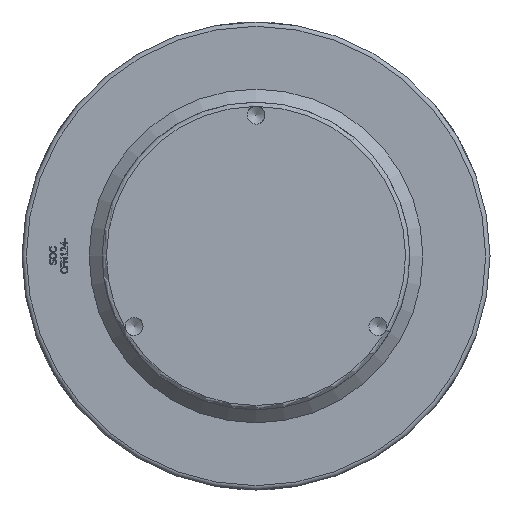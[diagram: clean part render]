
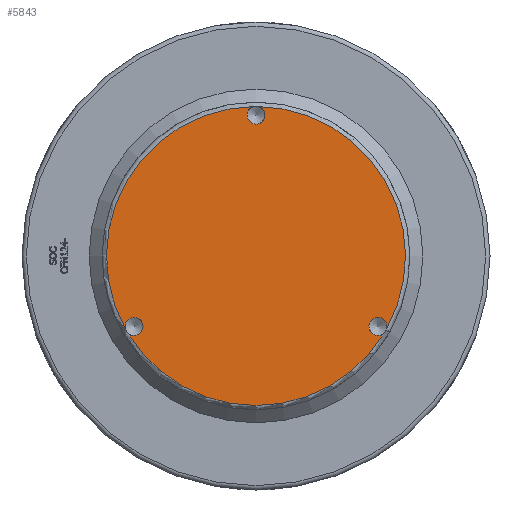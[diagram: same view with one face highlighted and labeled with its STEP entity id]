
A CAD part, front view. The second image highlights one B-rep face of the part: STEP entity #5843.
In plain terms, the highlighted planar face has unit normal (0, -1, 0) as drawn and (0, 1, 0) by its records, which use the part's own axes.
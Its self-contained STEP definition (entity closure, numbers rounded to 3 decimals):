
#1269=PLANE('',#6241);
#1816=FACE_OUTER_BOUND('',#2157,.T.);
#2157=EDGE_LOOP('',(#4070,#4071,#4072,#4073,#4074,#4075));
#2540=CIRCLE('',#6231,10.376);
#2542=CIRCLE('',#6235,10.376);
#2543=CIRCLE('',#6237,172.5);
#2544=CIRCLE('',#6238,172.5);
#2545=CIRCLE('',#6239,172.5);
#2547=CIRCLE('',#6242,10.376);
#2568=VERTEX_POINT('',#7448);
#2569=VERTEX_POINT('',#7449);
#2571=VERTEX_POINT('',#7465);
#2572=VERTEX_POINT('',#7466);
#2573=VERTEX_POINT('',#7479);
#2574=VERTEX_POINT('',#7481);
#3171=EDGE_CURVE('',#2569,#2568,#2540,.T.);
#3174=EDGE_CURVE('',#2572,#2571,#2542,.T.);
#3175=EDGE_CURVE('',#2569,#2573,#2543,.T.);
#3177=EDGE_CURVE('',#2574,#2571,#2544,.T.);
#3178=EDGE_CURVE('',#2572,#2568,#2545,.T.);
#3180=EDGE_CURVE('',#2574,#2573,#2547,.T.);
#4070=ORIENTED_EDGE('',*,*,#3171,.T.);
#4071=ORIENTED_EDGE('',*,*,#3178,.F.);
#4072=ORIENTED_EDGE('',*,*,#3174,.T.);
#4073=ORIENTED_EDGE('',*,*,#3177,.F.);
#4074=ORIENTED_EDGE('',*,*,#3180,.T.);
#4075=ORIENTED_EDGE('',*,*,#3175,.F.);
#5843=ADVANCED_FACE('',(#1816),#1269,.T.);
#6231=AXIS2_PLACEMENT_3D('',#7460,#6459,#6460);
#6235=AXIS2_PLACEMENT_3D('',#7477,#6467,#6468);
#6237=AXIS2_PLACEMENT_3D('',#7480,#6471,#6472);
#6238=AXIS2_PLACEMENT_3D('',#7488,#6473,#6474);
#6239=AXIS2_PLACEMENT_3D('',#7489,#6475,#6476);
#6241=AXIS2_PLACEMENT_3D('',#7492,#6479,#6480);
#6242=AXIS2_PLACEMENT_3D('',#7493,#6481,#6482);
#6459=DIRECTION('center_axis',(0.,-1.,0.));
#6460=DIRECTION('ref_axis',(-0.5,0.,-0.866));
#6467=DIRECTION('center_axis',(0.,-1.,0.));
#6468=DIRECTION('ref_axis',(-0.5,0.,0.866));
#6471=DIRECTION('center_axis',(0.,-1.,0.));
#6472=DIRECTION('ref_axis',(-1.,0.,0.));
#6473=DIRECTION('center_axis',(0.,-1.,0.));
#6474=DIRECTION('ref_axis',(-1.,0.,0.));
#6475=DIRECTION('center_axis',(0.,-1.,0.));
#6476=DIRECTION('ref_axis',(-1.,0.,0.));
#6479=DIRECTION('center_axis',(0.,1.,0.));
#6480=DIRECTION('ref_axis',(0.,0.,1.));
#6481=DIRECTION('center_axis',(0.,-1.,0.));
#6482=DIRECTION('ref_axis',(1.,0.,0.));
#7448=CARTESIAN_POINT('',(147.943,325.5,-88.708));
#7449=CARTESIAN_POINT('',(150.795,325.5,-83.769));
#7460=CARTESIAN_POINT('Origin',(140.729,325.5,-81.25));
#7465=CARTESIAN_POINT('',(-150.795,325.5,-83.769));
#7466=CARTESIAN_POINT('',(-147.943,325.5,-88.708));
#7477=CARTESIAN_POINT('Origin',(-140.729,325.5,-81.25));
#7479=CARTESIAN_POINT('',(2.852,325.5,172.476));
#7480=CARTESIAN_POINT('Origin',(0.,325.5,0.));
#7481=CARTESIAN_POINT('',(-2.852,325.5,172.476));
#7488=CARTESIAN_POINT('Origin',(0.,325.5,0.));
#7489=CARTESIAN_POINT('Origin',(0.,325.5,0.));
#7492=CARTESIAN_POINT('Origin',(177.5,325.5,0.));
#7493=CARTESIAN_POINT('Origin',(0.,325.5,162.5));
